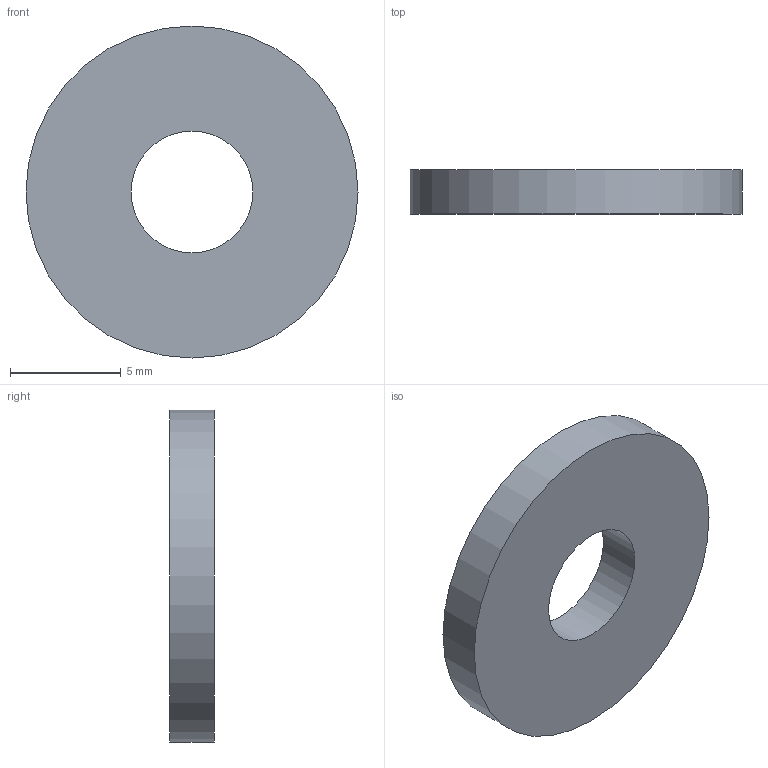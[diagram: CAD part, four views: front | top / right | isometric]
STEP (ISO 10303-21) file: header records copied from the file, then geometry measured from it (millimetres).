
FILE_DESCRIPTION(('Open CASCADE Model'),'2;1');
FILE_NAME('Open CASCADE Shape Model','2026-10-18T22:58:06',('Author'),( 'Open CASCADE'),'Open CASCADE STEP processor 7.9','Open CASCADE 7.9' ,'Unknown');
FILE_SCHEMA(('AUTOMOTIVE_DESIGN { 1 0 10303 214 1 1 1 1 }'));
Length unit declared in the file: millimetre
Products named in the file (1): Open CASCADE STEP translator 7.9 8
Bounding box: 15 x 2 x 15 mm (x, y, z)
Volume: 305.9 mm3; surface area: 434.7 mm2
Topology: 1 solids, 1 shells, 4 faces, 6 edges, 4 vertices
Faces by surface type: cylinder 2, plane 2
Full cylindrical faces by diameter (mm): 5.5 x1, 15 x1
Entity records: 186 total; most frequent: DIRECTION 32, CARTESIAN_POINT 27, ORIENTED_EDGE 12, PCURVE 12, DEFINITIONAL_REPRESENTATION 12, LINE 10, VECTOR 10, AXIS2_PLACEMENT_3D 9
